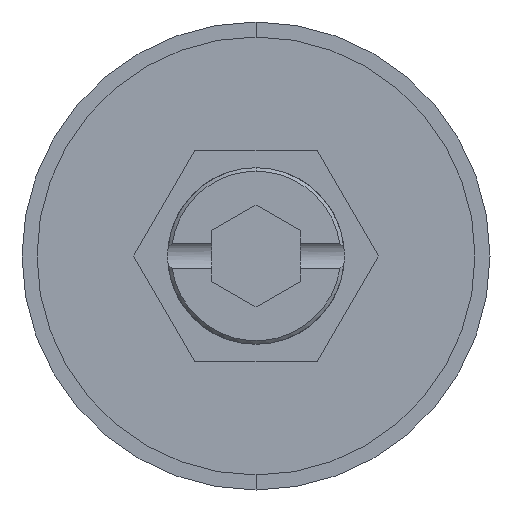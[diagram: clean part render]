
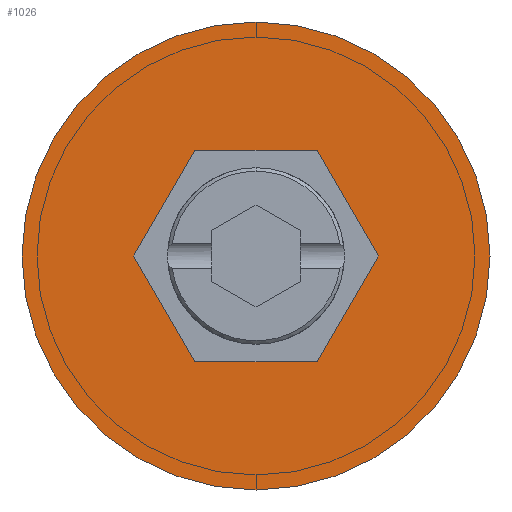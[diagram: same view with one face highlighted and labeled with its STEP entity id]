
A CAD part, front view. The second image highlights one B-rep face of the part: STEP entity #1026.
In plain terms, the highlighted planar face has unit normal (0, -1, 0).
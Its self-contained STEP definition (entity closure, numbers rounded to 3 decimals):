
#9 = CARTESIAN_POINT ( 'NONE',  ( 3.464, 0., 6. ) ) ;
#58 = DIRECTION ( 'NONE',  ( 0.5, 0., -0.866 ) ) ;
#79 = FACE_BOUND ( 'NONE', #987, .T. ) ;
#104 = VECTOR ( 'NONE', #612, 1000. ) ;
#120 = CARTESIAN_POINT ( 'NONE',  ( 3.464, 0., 6. ) ) ;
#175 = LINE ( 'NONE', #1539, #635 ) ;
#290 = DIRECTION ( 'NONE',  ( -1., 0., 0. ) ) ;
#327 = DIRECTION ( 'NONE',  ( -0.5, 0., 0.866 ) ) ;
#330 = CARTESIAN_POINT ( 'NONE',  ( 0., 0., 13.25 ) ) ;
#336 = EDGE_CURVE ( 'NONE', #1756, #1114, #175, .T. ) ;
#385 = ORIENTED_EDGE ( 'NONE', *, *, #887, .F. ) ;
#393 = CARTESIAN_POINT ( 'NONE',  ( 3.464, 0., -6. ) ) ;
#409 = VERTEX_POINT ( 'NONE', #393 ) ;
#468 = CARTESIAN_POINT ( 'NONE',  ( -3.464, 0., 6. ) ) ;
#500 = EDGE_CURVE ( 'NONE', #1114, #2217, #2072, .T. ) ;
#521 = DIRECTION ( 'NONE',  ( 0., -1., 0. ) ) ;
#564 = LINE ( 'NONE', #1800, #104 ) ;
#571 = LINE ( 'NONE', #1833, #1422 ) ;
#585 = ORIENTED_EDGE ( 'NONE', *, *, #336, .F. ) ;
#595 = AXIS2_PLACEMENT_3D ( 'NONE', #921, #2141, #1103 ) ;
#612 = DIRECTION ( 'NONE',  ( 0.5, 0., 0.866 ) ) ;
#635 = VECTOR ( 'NONE', #327, 1000. ) ;
#638 = LINE ( 'NONE', #468, #1894 ) ;
#702 = VECTOR ( 'NONE', #290, 1000. ) ;
#727 = CIRCLE ( 'NONE', #1845, 13.25 ) ;
#735 = VERTEX_POINT ( 'NONE', #330 ) ;
#738 = EDGE_CURVE ( 'NONE', #735, #1247, #727, .T. ) ;
#758 = VECTOR ( 'NONE', #58, 1000. ) ;
#840 = CARTESIAN_POINT ( 'NONE',  ( 0., 0., 0. ) ) ;
#874 = CIRCLE ( 'NONE', #595, 13.25 ) ;
#887 = EDGE_CURVE ( 'NONE', #1067, #1812, #2189, .T. ) ;
#921 = CARTESIAN_POINT ( 'NONE',  ( 0., 0., 0. ) ) ;
#972 = CARTESIAN_POINT ( 'NONE',  ( -3.464, 0., 6. ) ) ;
#987 = EDGE_LOOP ( 'NONE', ( #1450, #385, #1924, #993, #585, #1402 ) ) ;
#993 = ORIENTED_EDGE ( 'NONE', *, *, #500, .F. ) ;
#996 = ORIENTED_EDGE ( 'NONE', *, *, #2048, .T. ) ;
#1015 = DIRECTION ( 'NONE',  ( 0., -1., 0. ) ) ;
#1026 = ADVANCED_FACE ( 'NONE', ( #79, #1852 ), #1525, .T. ) ;
#1067 = VERTEX_POINT ( 'NONE', #1716 ) ;
#1103 = DIRECTION ( 'NONE',  ( 0., 0., -1. ) ) ;
#1114 = VERTEX_POINT ( 'NONE', #9 ) ;
#1186 = CARTESIAN_POINT ( 'NONE',  ( -3.464, 0., -6. ) ) ;
#1247 = VERTEX_POINT ( 'NONE', #1390 ) ;
#1390 = CARTESIAN_POINT ( 'NONE',  ( 0., 0., -13.25 ) ) ;
#1402 = ORIENTED_EDGE ( 'NONE', *, *, #1614, .F. ) ;
#1422 = VECTOR ( 'NONE', #2196, 1000. ) ;
#1450 = ORIENTED_EDGE ( 'NONE', *, *, #2210, .F. ) ;
#1471 = EDGE_LOOP ( 'NONE', ( #996, #1808 ) ) ;
#1509 = DIRECTION ( 'NONE',  ( -0.5, 0., -0.866 ) ) ;
#1525 = PLANE ( 'NONE',  #1636 ) ;
#1539 = CARTESIAN_POINT ( 'NONE',  ( 6.928, 0., 0. ) ) ;
#1556 = CARTESIAN_POINT ( 'NONE',  ( 0., 0., 0. ) ) ;
#1613 = CARTESIAN_POINT ( 'NONE',  ( -6.928, 0., 0. ) ) ;
#1614 = EDGE_CURVE ( 'NONE', #409, #1756, #564, .T. ) ;
#1636 = AXIS2_PLACEMENT_3D ( 'NONE', #840, #1015, #2228 ) ;
#1716 = CARTESIAN_POINT ( 'NONE',  ( -6.928, 0., 0. ) ) ;
#1729 = DIRECTION ( 'NONE',  ( 0., 0., -1. ) ) ;
#1756 = VERTEX_POINT ( 'NONE', #2203 ) ;
#1800 = CARTESIAN_POINT ( 'NONE',  ( 3.464, 0., -6. ) ) ;
#1808 = ORIENTED_EDGE ( 'NONE', *, *, #738, .T. ) ;
#1812 = VERTEX_POINT ( 'NONE', #1186 ) ;
#1833 = CARTESIAN_POINT ( 'NONE',  ( -3.464, 0., -6. ) ) ;
#1845 = AXIS2_PLACEMENT_3D ( 'NONE', #1556, #521, #1729 ) ;
#1852 = FACE_OUTER_BOUND ( 'NONE', #1471, .T. ) ;
#1894 = VECTOR ( 'NONE', #1509, 1000. ) ;
#1924 = ORIENTED_EDGE ( 'NONE', *, *, #1928, .F. ) ;
#1928 = EDGE_CURVE ( 'NONE', #2217, #1067, #638, .T. ) ;
#2048 = EDGE_CURVE ( 'NONE', #1247, #735, #874, .T. ) ;
#2072 = LINE ( 'NONE', #120, #702 ) ;
#2141 = DIRECTION ( 'NONE',  ( 0., -1., 0. ) ) ;
#2189 = LINE ( 'NONE', #1613, #758 ) ;
#2196 = DIRECTION ( 'NONE',  ( 1., 0., 0. ) ) ;
#2203 = CARTESIAN_POINT ( 'NONE',  ( 6.928, 0., 0. ) ) ;
#2210 = EDGE_CURVE ( 'NONE', #1812, #409, #571, .T. ) ;
#2217 = VERTEX_POINT ( 'NONE', #972 ) ;
#2228 = DIRECTION ( 'NONE',  ( 0., 0., -1. ) ) ;
